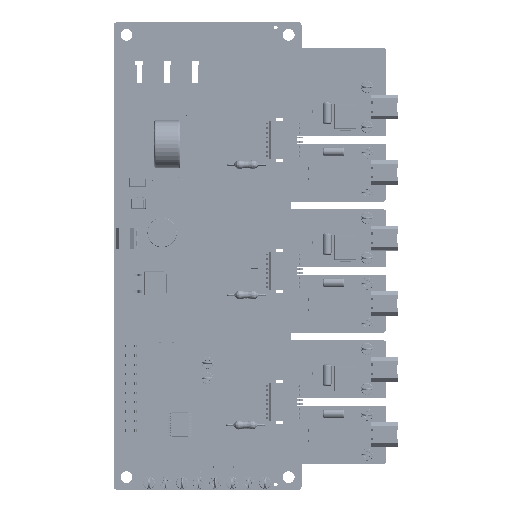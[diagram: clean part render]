
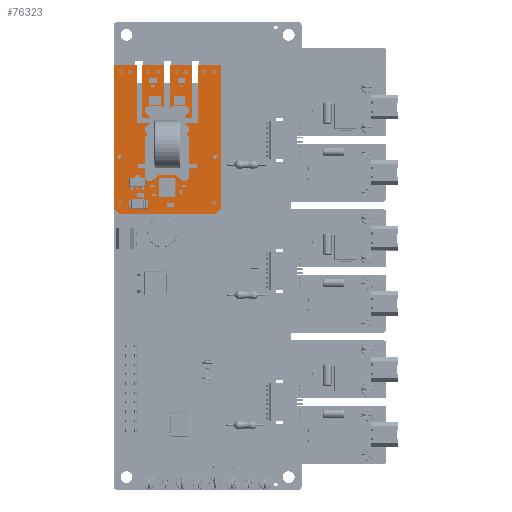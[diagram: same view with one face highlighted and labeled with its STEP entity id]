
A CAD part, top view. The second image highlights one B-rep face of the part: STEP entity #76323.
In plain terms, the highlighted planar face has unit normal (0, 0, 1).
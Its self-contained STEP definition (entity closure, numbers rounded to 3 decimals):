
#75646 = VERTEX_POINT('',#75647);
#75647 = CARTESIAN_POINT('',(7.767,11.019,0.));
#75664 = VERTEX_POINT('',#75665);
#75665 = CARTESIAN_POINT('',(9.267,12.519,0.));
#75671 = EDGE_CURVE('',#75646,#75664,#75672,.T.);
#75672 = LINE('',#75673,#75674);
#75673 = CARTESIAN_POINT('',(7.767,11.019,0.));
#75674 = VECTOR('',#75675,1.);
#75675 = DIRECTION('',(0.707,0.707,0.));
#75695 = VERTEX_POINT('',#75696);
#75696 = CARTESIAN_POINT('',(48.267,12.519,0.));
#75702 = EDGE_CURVE('',#75664,#75695,#75703,.T.);
#75703 = LINE('',#75704,#75705);
#75704 = CARTESIAN_POINT('',(9.267,12.519,0.));
#75705 = VECTOR('',#75706,1.);
#75706 = DIRECTION('',(1.,0.,0.));
#75726 = VERTEX_POINT('',#75727);
#75727 = CARTESIAN_POINT('',(48.267,6.319,0.));
#75733 = EDGE_CURVE('',#75695,#75726,#75734,.T.);
#75734 = LINE('',#75735,#75736);
#75735 = CARTESIAN_POINT('',(48.267,12.519,0.));
#75736 = VECTOR('',#75737,1.);
#75737 = DIRECTION('',(0.,-1.,0.));
#75757 = VERTEX_POINT('',#75758);
#75758 = CARTESIAN_POINT('',(32.367,6.319,0.));
#75764 = EDGE_CURVE('',#75726,#75757,#75765,.T.);
#75765 = LINE('',#75766,#75767);
#75766 = CARTESIAN_POINT('',(48.267,6.319,0.));
#75767 = VECTOR('',#75768,1.);
#75768 = DIRECTION('',(-1.,0.,0.));
#75788 = VERTEX_POINT('',#75789);
#75789 = CARTESIAN_POINT('',(32.367,1.219,0.));
#75795 = EDGE_CURVE('',#75757,#75788,#75796,.T.);
#75796 = LINE('',#75797,#75798);
#75797 = CARTESIAN_POINT('',(32.367,6.319,0.));
#75798 = VECTOR('',#75799,1.);
#75799 = DIRECTION('',(0.,-1.,0.));
#75819 = VERTEX_POINT('',#75820);
#75820 = CARTESIAN_POINT('',(33.867,1.219,0.));
#75826 = EDGE_CURVE('',#75788,#75819,#75827,.T.);
#75827 = LINE('',#75828,#75829);
#75828 = CARTESIAN_POINT('',(32.367,1.219,0.));
#75829 = VECTOR('',#75830,1.);
#75830 = DIRECTION('',(1.,0.,0.));
#75850 = VERTEX_POINT('',#75851);
#75851 = CARTESIAN_POINT('',(33.867,4.819,0.));
#75857 = EDGE_CURVE('',#75819,#75850,#75858,.T.);
#75858 = LINE('',#75859,#75860);
#75859 = CARTESIAN_POINT('',(33.867,1.219,0.));
#75860 = VECTOR('',#75861,1.);
#75861 = DIRECTION('',(0.,1.,0.));
#75881 = VERTEX_POINT('',#75882);
#75882 = CARTESIAN_POINT('',(48.267,4.819,0.));
#75888 = EDGE_CURVE('',#75850,#75881,#75889,.T.);
#75889 = LINE('',#75890,#75891);
#75890 = CARTESIAN_POINT('',(33.867,4.819,0.));
#75891 = VECTOR('',#75892,1.);
#75892 = DIRECTION('',(1.,0.,0.));
#75912 = VERTEX_POINT('',#75913);
#75913 = CARTESIAN_POINT('',(48.267,-1.231,0.));
#75919 = EDGE_CURVE('',#75881,#75912,#75920,.T.);
#75920 = LINE('',#75921,#75922);
#75921 = CARTESIAN_POINT('',(48.267,4.819,0.));
#75922 = VECTOR('',#75923,1.);
#75923 = DIRECTION('',(0.,-1.,0.));
#75943 = VERTEX_POINT('',#75944);
#75944 = CARTESIAN_POINT('',(33.767,-1.231,0.));
#75950 = EDGE_CURVE('',#75912,#75943,#75951,.T.);
#75951 = LINE('',#75952,#75953);
#75952 = CARTESIAN_POINT('',(48.267,-1.231,0.));
#75953 = VECTOR('',#75954,1.);
#75954 = DIRECTION('',(-1.,0.,0.));
#75974 = VERTEX_POINT('',#75975);
#75975 = CARTESIAN_POINT('',(33.767,-2.731,0.));
#75981 = EDGE_CURVE('',#75943,#75974,#75982,.T.);
#75982 = LINE('',#75983,#75984);
#75983 = CARTESIAN_POINT('',(33.767,-1.231,0.));
#75984 = VECTOR('',#75985,1.);
#75985 = DIRECTION('',(0.,-1.,0.));
#76005 = VERTEX_POINT('',#76006);
#76006 = CARTESIAN_POINT('',(48.267,-2.731,0.));
#76012 = EDGE_CURVE('',#75974,#76005,#76013,.T.);
#76013 = LINE('',#76014,#76015);
#76014 = CARTESIAN_POINT('',(33.767,-2.731,0.));
#76015 = VECTOR('',#76016,1.);
#76016 = DIRECTION('',(1.,0.,0.));
#76036 = VERTEX_POINT('',#76037);
#76037 = CARTESIAN_POINT('',(48.267,-8.781,0.));
#76043 = EDGE_CURVE('',#76005,#76036,#76044,.T.);
#76044 = LINE('',#76045,#76046);
#76045 = CARTESIAN_POINT('',(48.267,-2.731,0.));
#76046 = VECTOR('',#76047,1.);
#76047 = DIRECTION('',(0.,-1.,0.));
#76067 = VERTEX_POINT('',#76068);
#76068 = CARTESIAN_POINT('',(33.867,-8.781,0.));
#76074 = EDGE_CURVE('',#76036,#76067,#76075,.T.);
#76075 = LINE('',#76076,#76077);
#76076 = CARTESIAN_POINT('',(48.267,-8.781,0.));
#76077 = VECTOR('',#76078,1.);
#76078 = DIRECTION('',(-1.,0.,0.));
#76098 = VERTEX_POINT('',#76099);
#76099 = CARTESIAN_POINT('',(33.867,-5.181,0.));
#76105 = EDGE_CURVE('',#76067,#76098,#76106,.T.);
#76106 = LINE('',#76107,#76108);
#76107 = CARTESIAN_POINT('',(33.867,-8.781,0.));
#76108 = VECTOR('',#76109,1.);
#76109 = DIRECTION('',(0.,1.,0.));
#76129 = VERTEX_POINT('',#76130);
#76130 = CARTESIAN_POINT('',(32.367,-5.181,0.));
#76136 = EDGE_CURVE('',#76098,#76129,#76137,.T.);
#76137 = LINE('',#76138,#76139);
#76138 = CARTESIAN_POINT('',(33.867,-5.181,0.));
#76139 = VECTOR('',#76140,1.);
#76140 = DIRECTION('',(-1.,0.,0.));
#76160 = VERTEX_POINT('',#76161);
#76161 = CARTESIAN_POINT('',(32.367,-10.281,0.));
#76167 = EDGE_CURVE('',#76129,#76160,#76168,.T.);
#76168 = LINE('',#76169,#76170);
#76169 = CARTESIAN_POINT('',(32.367,-5.181,0.));
#76170 = VECTOR('',#76171,1.);
#76171 = DIRECTION('',(0.,-1.,0.));
#76191 = VERTEX_POINT('',#76192);
#76192 = CARTESIAN_POINT('',(48.267,-10.281,0.));
#76198 = EDGE_CURVE('',#76160,#76191,#76199,.T.);
#76199 = LINE('',#76200,#76201);
#76200 = CARTESIAN_POINT('',(32.367,-10.281,0.));
#76201 = VECTOR('',#76202,1.);
#76202 = DIRECTION('',(1.,0.,0.));
#76222 = VERTEX_POINT('',#76223);
#76223 = CARTESIAN_POINT('',(48.267,-16.481,0.));
#76229 = EDGE_CURVE('',#76191,#76222,#76230,.T.);
#76230 = LINE('',#76231,#76232);
#76231 = CARTESIAN_POINT('',(48.267,-10.281,0.));
#76232 = VECTOR('',#76233,1.);
#76233 = DIRECTION('',(0.,-1.,0.));
#76253 = VERTEX_POINT('',#76254);
#76254 = CARTESIAN_POINT('',(9.267,-16.481,0.));
#76260 = EDGE_CURVE('',#76222,#76253,#76261,.T.);
#76261 = LINE('',#76262,#76263);
#76262 = CARTESIAN_POINT('',(48.267,-16.481,0.));
#76263 = VECTOR('',#76264,1.);
#76264 = DIRECTION('',(-1.,0.,0.));
#76284 = VERTEX_POINT('',#76285);
#76285 = CARTESIAN_POINT('',(7.767,-14.981,0.));
#76291 = EDGE_CURVE('',#76253,#76284,#76292,.T.);
#76292 = LINE('',#76293,#76294);
#76293 = CARTESIAN_POINT('',(9.267,-16.481,0.));
#76294 = VECTOR('',#76295,1.);
#76295 = DIRECTION('',(-0.707,0.707,0.));
#76313 = EDGE_CURVE('',#76284,#75646,#76314,.T.);
#76314 = LINE('',#76315,#76316);
#76315 = CARTESIAN_POINT('',(7.767,-14.981,0.));
#76316 = VECTOR('',#76317,1.);
#76317 = DIRECTION('',(0.,1.,0.));
#76323 = ADVANCED_FACE('',(#76324,#76348,#76359,#76370),#76404,.T.);
#76324 = FACE_BOUND('',#76325,.F.);
#76325 = EDGE_LOOP('',(#76326,#76327,#76328,#76329,#76330,#76331,#76332,
    #76333,#76334,#76335,#76336,#76337,#76338,#76339,#76340,#76341,
    #76342,#76343,#76344,#76345,#76346,#76347));
#76326 = ORIENTED_EDGE('',*,*,#75671,.T.);
#76327 = ORIENTED_EDGE('',*,*,#75702,.T.);
#76328 = ORIENTED_EDGE('',*,*,#75733,.T.);
#76329 = ORIENTED_EDGE('',*,*,#75764,.T.);
#76330 = ORIENTED_EDGE('',*,*,#75795,.T.);
#76331 = ORIENTED_EDGE('',*,*,#75826,.T.);
#76332 = ORIENTED_EDGE('',*,*,#75857,.T.);
#76333 = ORIENTED_EDGE('',*,*,#75888,.T.);
#76334 = ORIENTED_EDGE('',*,*,#75919,.T.);
#76335 = ORIENTED_EDGE('',*,*,#75950,.T.);
#76336 = ORIENTED_EDGE('',*,*,#75981,.T.);
#76337 = ORIENTED_EDGE('',*,*,#76012,.T.);
#76338 = ORIENTED_EDGE('',*,*,#76043,.T.);
#76339 = ORIENTED_EDGE('',*,*,#76074,.T.);
#76340 = ORIENTED_EDGE('',*,*,#76105,.T.);
#76341 = ORIENTED_EDGE('',*,*,#76136,.T.);
#76342 = ORIENTED_EDGE('',*,*,#76167,.T.);
#76343 = ORIENTED_EDGE('',*,*,#76198,.T.);
#76344 = ORIENTED_EDGE('',*,*,#76229,.T.);
#76345 = ORIENTED_EDGE('',*,*,#76260,.T.);
#76346 = ORIENTED_EDGE('',*,*,#76291,.T.);
#76347 = ORIENTED_EDGE('',*,*,#76313,.T.);
#76348 = FACE_BOUND('',#76349,.T.);
#76349 = EDGE_LOOP('',(#76350));
#76350 = ORIENTED_EDGE('',*,*,#76351,.T.);
#76351 = EDGE_CURVE('',#76352,#76352,#76354,.T.);
#76352 = VERTEX_POINT('',#76353);
#76353 = CARTESIAN_POINT('',(23.792,-14.981,0.));
#76354 = CIRCLE('',#76355,0.525);
#76355 = AXIS2_PLACEMENT_3D('',#76356,#76357,#76358);
#76356 = CARTESIAN_POINT('',(23.267,-14.981,0.));
#76357 = DIRECTION('',(0.,0.,-1.));
#76358 = DIRECTION('',(1.,0.,0.));
#76359 = FACE_BOUND('',#76360,.T.);
#76360 = EDGE_LOOP('',(#76361));
#76361 = ORIENTED_EDGE('',*,*,#76362,.T.);
#76362 = EDGE_CURVE('',#76363,#76363,#76365,.T.);
#76363 = VERTEX_POINT('',#76364);
#76364 = CARTESIAN_POINT('',(23.792,11.019,0.));
#76365 = CIRCLE('',#76366,0.525);
#76366 = AXIS2_PLACEMENT_3D('',#76367,#76368,#76369);
#76367 = CARTESIAN_POINT('',(23.267,11.019,0.));
#76368 = DIRECTION('',(0.,0.,-1.));
#76369 = DIRECTION('',(1.,0.,0.));
#76370 = FACE_BOUND('',#76371,.T.);
#76371 = EDGE_LOOP('',(#76372,#76382,#76390,#76398));
#76372 = ORIENTED_EDGE('',*,*,#76373,.T.);
#76373 = EDGE_CURVE('',#76374,#76376,#76378,.T.);
#76374 = VERTEX_POINT('',#76375);
#76375 = CARTESIAN_POINT('',(20.267,6.019,0.));
#76376 = VERTEX_POINT('',#76377);
#76377 = CARTESIAN_POINT('',(21.267,6.019,0.));
#76378 = LINE('',#76379,#76380);
#76379 = CARTESIAN_POINT('',(20.267,6.019,0.));
#76380 = VECTOR('',#76381,1.);
#76381 = DIRECTION('',(1.,0.,0.));
#76382 = ORIENTED_EDGE('',*,*,#76383,.T.);
#76383 = EDGE_CURVE('',#76376,#76384,#76386,.T.);
#76384 = VERTEX_POINT('',#76385);
#76385 = CARTESIAN_POINT('',(21.267,-9.981,0.));
#76386 = LINE('',#76387,#76388);
#76387 = CARTESIAN_POINT('',(21.267,6.019,0.));
#76388 = VECTOR('',#76389,1.);
#76389 = DIRECTION('',(0.,-1.,0.));
#76390 = ORIENTED_EDGE('',*,*,#76391,.T.);
#76391 = EDGE_CURVE('',#76384,#76392,#76394,.T.);
#76392 = VERTEX_POINT('',#76393);
#76393 = CARTESIAN_POINT('',(20.267,-9.981,0.));
#76394 = LINE('',#76395,#76396);
#76395 = CARTESIAN_POINT('',(21.267,-9.981,0.));
#76396 = VECTOR('',#76397,1.);
#76397 = DIRECTION('',(-1.,0.,0.));
#76398 = ORIENTED_EDGE('',*,*,#76399,.T.);
#76399 = EDGE_CURVE('',#76392,#76374,#76400,.T.);
#76400 = LINE('',#76401,#76402);
#76401 = CARTESIAN_POINT('',(20.267,-9.981,0.));
#76402 = VECTOR('',#76403,1.);
#76403 = DIRECTION('',(0.,1.,0.));
#76404 = PLANE('',#76405);
#76405 = AXIS2_PLACEMENT_3D('',#76406,#76407,#76408);
#76406 = CARTESIAN_POINT('',(7.767,11.019,0.));
#76407 = DIRECTION('',(0.,0.,1.));
#76408 = DIRECTION('',(1.,0.,0.));
